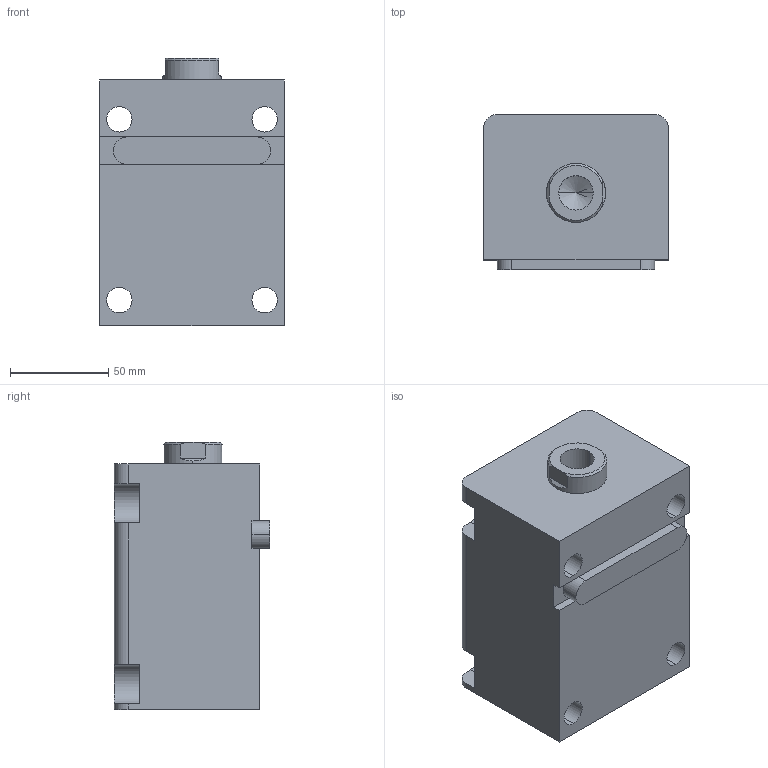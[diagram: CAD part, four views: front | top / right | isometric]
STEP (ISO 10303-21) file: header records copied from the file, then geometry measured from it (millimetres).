
FILE_DESCRIPTION (( 'STEP AP203' ), '1' );
FILE_NAME ('HTB-LA50-65N.STEP', '2019-10-09T07:11:36', ( '微软用户' ), ( '微软中国' ), 'SwSTEP 2.0', 'SolidWorks 2012', '' );
FILE_SCHEMA (( 'CONFIG_CONTROL_DESIGN' ));
Length unit declared in the file: millimetre
Products named in the file (4): HTB-LA50-65N活塞杆; HTB-LA50-65N; HTB-LA50-65掛极; HTB-LA50-瑩
Assembly tree (3 placements, depth 2):
  HTB-LA50-65N
    HTB-LA50-65掛极
    HTB-LA50-65N活塞杆
    HTB-LA50-瑩
Bounding box: 94 x 79 x 136 mm (x, y, z)
Volume: 737981.5 mm3; surface area: 108084.2 mm2
Topology: 3 solids, 3 shells, 86 faces, 213 edges, 139 vertices
Faces by surface type: plane 39, cylinder 35, cone 8, torus 4
Entity records: 3001 total; most frequent: DIRECTION 475, CARTESIAN_POINT 470, ORIENTED_EDGE 422, EDGE_CURVE 211, AXIS2_PLACEMENT_3D 180, VERTEX_POINT 139, LINE 115, VECTOR 115
